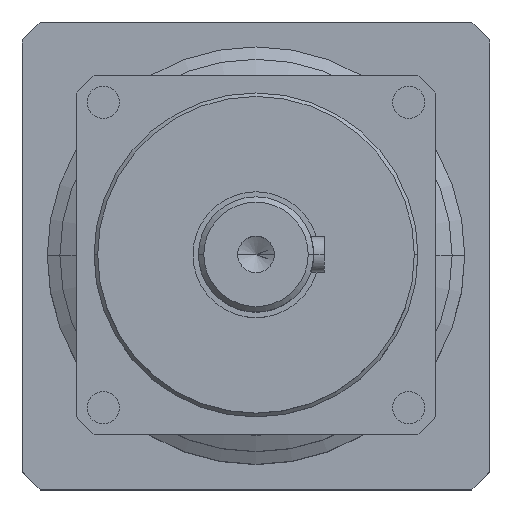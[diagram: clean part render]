
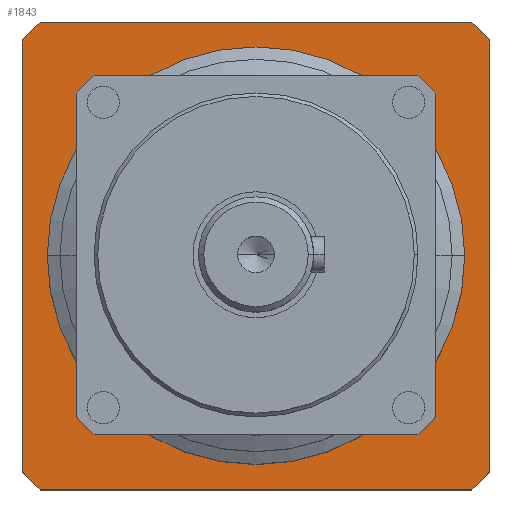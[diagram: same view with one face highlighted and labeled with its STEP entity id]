
A CAD part, top view. The second image highlights one B-rep face of the part: STEP entity #1843.
In plain terms, the highlighted planar face has unit normal (0, 0, 1).
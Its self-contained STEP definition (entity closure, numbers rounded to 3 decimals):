
#200 = LINE ( 'NONE', #29694, #12953 ) ;
#1170 = EDGE_CURVE ( 'NONE', #29575, #25673, #13793, .T. ) ;
#1843 = ADVANCED_FACE ( 'NONE', ( #6271, #12912 ), #14895, .F. ) ;
#2019 = ORIENTED_EDGE ( 'NONE', *, *, #13731, .F. ) ;
#2674 = CARTESIAN_POINT ( 'NONE',  ( 60., -65., -170. ) ) ;
#2862 = AXIS2_PLACEMENT_3D ( 'NONE', #3449, #21023, #6062 ) ;
#3097 = CARTESIAN_POINT ( 'NONE',  ( 60., 65., -170. ) ) ;
#3234 = EDGE_CURVE ( 'NONE', #17440, #19880, #6126, .T. ) ;
#3449 = CARTESIAN_POINT ( 'NONE',  ( 0., 0., -170. ) ) ;
#3876 = EDGE_CURVE ( 'NONE', #4062, #31812, #32436, .T. ) ;
#4062 = VERTEX_POINT ( 'NONE', #17766 ) ;
#4867 = VECTOR ( 'NONE', #26170, 1000. ) ;
#4998 = EDGE_LOOP ( 'NONE', ( #28683, #13362 ) ) ;
#5232 = DIRECTION ( 'NONE',  ( -1., 0., 0. ) ) ;
#5329 = VECTOR ( 'NONE', #9242, 1000. ) ;
#6062 = DIRECTION ( 'NONE',  ( 1., 0., 0. ) ) ;
#6126 = LINE ( 'NONE', #21778, #5329 ) ;
#6167 = CARTESIAN_POINT ( 'NONE',  ( -65., 60., -170. ) ) ;
#6271 = FACE_BOUND ( 'NONE', #4998, .T. ) ;
#7293 = CARTESIAN_POINT ( 'NONE',  ( 65., -60., -170. ) ) ;
#7717 = CARTESIAN_POINT ( 'NONE',  ( 0., 65., -170. ) ) ;
#7920 = CARTESIAN_POINT ( 'NONE',  ( 60., 65., -170. ) ) ;
#8640 = DIRECTION ( 'NONE',  ( 0., 0., -1. ) ) ;
#9242 = DIRECTION ( 'NONE',  ( -0.707, 0.707, 0. ) ) ;
#10044 = VECTOR ( 'NONE', #12102, 1000. ) ;
#10216 = AXIS2_PLACEMENT_3D ( 'NONE', #14409, #31691, #16891 ) ;
#10237 = DIRECTION ( 'NONE',  ( 1., 0., 0. ) ) ;
#10315 = ORIENTED_EDGE ( 'NONE', *, *, #24649, .F. ) ;
#11370 = CARTESIAN_POINT ( 'NONE',  ( 65., 0., -170. ) ) ;
#11648 = VERTEX_POINT ( 'NONE', #20824 ) ;
#12102 = DIRECTION ( 'NONE',  ( -0.707, -0.707, 0. ) ) ;
#12494 = EDGE_CURVE ( 'NONE', #28114, #17440, #26426, .T. ) ;
#12633 = ORIENTED_EDGE ( 'NONE', *, *, #15514, .F. ) ;
#12675 = VERTEX_POINT ( 'NONE', #13870 ) ;
#12912 = FACE_OUTER_BOUND ( 'NONE', #22811, .T. ) ;
#12953 = VECTOR ( 'NONE', #27261, 1000. ) ;
#13362 = ORIENTED_EDGE ( 'NONE', *, *, #3876, .F. ) ;
#13731 = EDGE_CURVE ( 'NONE', #12675, #31134, #30510, .T. ) ;
#13793 = LINE ( 'NONE', #3097, #20435 ) ;
#13870 = CARTESIAN_POINT ( 'NONE',  ( -65., 60., -170. ) ) ;
#13876 = DIRECTION ( 'NONE',  ( 0., -1., 0. ) ) ;
#14409 = CARTESIAN_POINT ( 'NONE',  ( 0., 0., -170. ) ) ;
#14468 = ORIENTED_EDGE ( 'NONE', *, *, #1170, .F. ) ;
#14627 = LINE ( 'NONE', #11370, #32038 ) ;
#14895 = PLANE ( 'NONE',  #19308 ) ;
#15239 = EDGE_CURVE ( 'NONE', #31134, #29575, #21968, .T. ) ;
#15316 = VECTOR ( 'NONE', #10237, 1000. ) ;
#15514 = EDGE_CURVE ( 'NONE', #19880, #12675, #200, .T. ) ;
#16830 = ORIENTED_EDGE ( 'NONE', *, *, #12494, .F. ) ;
#16891 = DIRECTION ( 'NONE',  ( 1., 0., 0. ) ) ;
#16959 = CARTESIAN_POINT ( 'NONE',  ( -60., 65., -170. ) ) ;
#17116 = EDGE_CURVE ( 'NONE', #11648, #28114, #22483, .T. ) ;
#17427 = EDGE_CURVE ( 'NONE', #31812, #4062, #28555, .T. ) ;
#17440 = VERTEX_POINT ( 'NONE', #30876 ) ;
#17766 = CARTESIAN_POINT ( 'NONE',  ( -58., 0., -170. ) ) ;
#18289 = ORIENTED_EDGE ( 'NONE', *, *, #17116, .F. ) ;
#18658 = DIRECTION ( 'NONE',  ( 0.707, -0.707, 0. ) ) ;
#19308 = AXIS2_PLACEMENT_3D ( 'NONE', #32187, #8640, #21077 ) ;
#19880 = VERTEX_POINT ( 'NONE', #27370 ) ;
#20435 = VECTOR ( 'NONE', #18658, 1000. ) ;
#20824 = CARTESIAN_POINT ( 'NONE',  ( 65., -60., -170. ) ) ;
#21023 = DIRECTION ( 'NONE',  ( 0., 0., 1. ) ) ;
#21077 = DIRECTION ( 'NONE',  ( -1., 0., 0. ) ) ;
#21778 = CARTESIAN_POINT ( 'NONE',  ( -60., -65., -170. ) ) ;
#21968 = LINE ( 'NONE', #7717, #15316 ) ;
#22483 = LINE ( 'NONE', #7293, #10044 ) ;
#22811 = EDGE_LOOP ( 'NONE', ( #18289, #10315, #14468, #28328, #2019, #12633, #26699, #16830 ) ) ;
#23041 = CARTESIAN_POINT ( 'NONE',  ( 65., 60., -170. ) ) ;
#23081 = CARTESIAN_POINT ( 'NONE',  ( 58., 0., -170. ) ) ;
#24649 = EDGE_CURVE ( 'NONE', #25673, #11648, #14627, .T. ) ;
#25673 = VERTEX_POINT ( 'NONE', #23041 ) ;
#26170 = DIRECTION ( 'NONE',  ( 0.707, 0.707, 0. ) ) ;
#26426 = LINE ( 'NONE', #29879, #32181 ) ;
#26699 = ORIENTED_EDGE ( 'NONE', *, *, #3234, .F. ) ;
#27261 = DIRECTION ( 'NONE',  ( 0., 1., 0. ) ) ;
#27370 = CARTESIAN_POINT ( 'NONE',  ( -65., -60., -170. ) ) ;
#28114 = VERTEX_POINT ( 'NONE', #2674 ) ;
#28328 = ORIENTED_EDGE ( 'NONE', *, *, #15239, .F. ) ;
#28555 = CIRCLE ( 'NONE', #2862, 58. ) ;
#28683 = ORIENTED_EDGE ( 'NONE', *, *, #17427, .F. ) ;
#29575 = VERTEX_POINT ( 'NONE', #7920 ) ;
#29694 = CARTESIAN_POINT ( 'NONE',  ( -65., 0., -170. ) ) ;
#29879 = CARTESIAN_POINT ( 'NONE',  ( 0., -65., -170. ) ) ;
#30510 = LINE ( 'NONE', #6167, #4867 ) ;
#30876 = CARTESIAN_POINT ( 'NONE',  ( -60., -65., -170. ) ) ;
#31134 = VERTEX_POINT ( 'NONE', #16959 ) ;
#31691 = DIRECTION ( 'NONE',  ( 0., 0., 1. ) ) ;
#31812 = VERTEX_POINT ( 'NONE', #23081 ) ;
#32038 = VECTOR ( 'NONE', #13876, 1000. ) ;
#32181 = VECTOR ( 'NONE', #5232, 1000. ) ;
#32187 = CARTESIAN_POINT ( 'NONE',  ( 0., 0., -170. ) ) ;
#32436 = CIRCLE ( 'NONE', #10216, 58. ) ;
